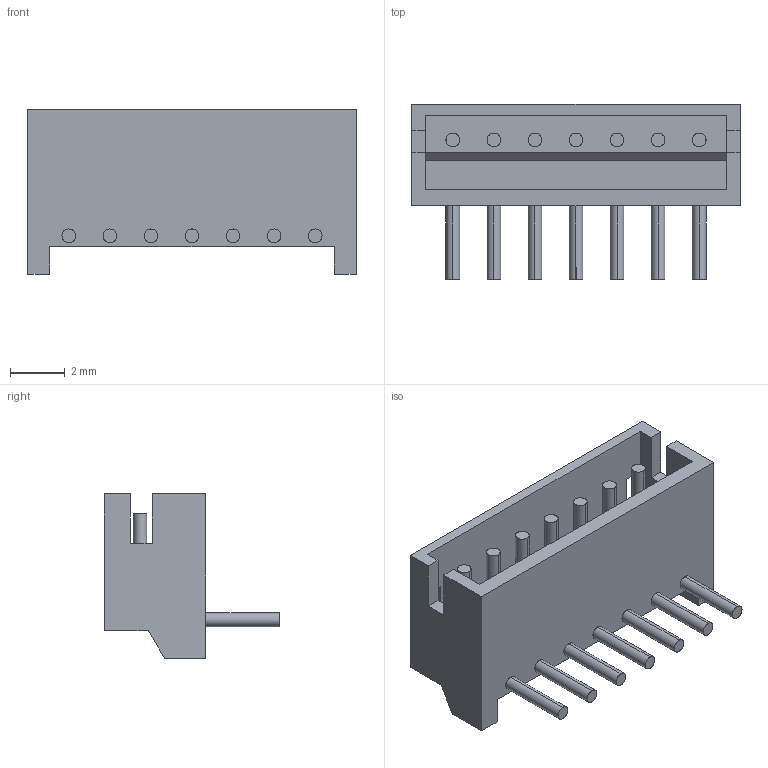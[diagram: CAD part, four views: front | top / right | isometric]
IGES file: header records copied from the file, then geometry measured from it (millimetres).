
Start section: SolidWorks IGES file using analytic representation for surfaces
Global section: file name: C:\Documents and Settings\y-masutani\デスクトップ\S7B-ZR.IGS; native system: SolidWorks 2005 by SolidWorks Corporation; preprocessor: SolidWorks 2005 by SolidWorks Corporation; author: y-masutani; date: 100614.173657; units: millimetre
Bounding box: 12 x 6.4 x 6 mm (x, y, z)
Surface area: 401.2 mm2 (no closed solid volume)
Topology: 0 solids, 0 shells, 74 faces, 760 edges, 760 vertices
Faces by surface type: bspline 46, revolution 28
